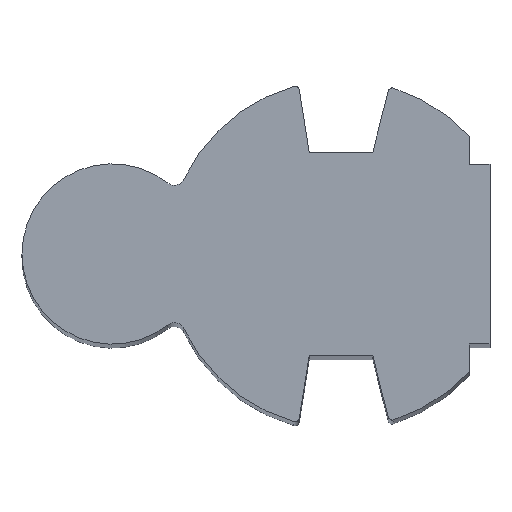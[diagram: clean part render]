
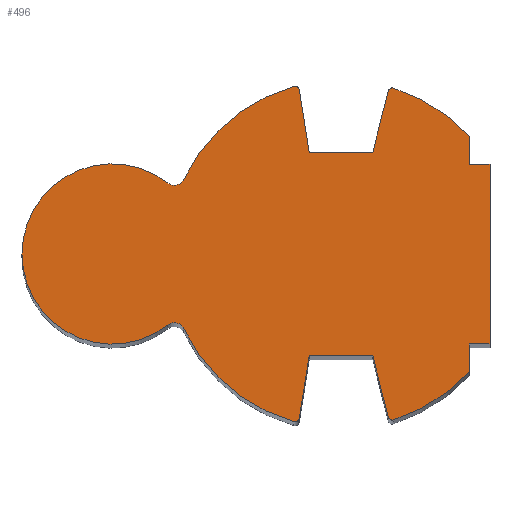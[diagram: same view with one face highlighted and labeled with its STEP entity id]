
A CAD part, top view. The second image highlights one B-rep face of the part: STEP entity #496.
In plain terms, the highlighted planar face has unit normal (0, 0, 1).
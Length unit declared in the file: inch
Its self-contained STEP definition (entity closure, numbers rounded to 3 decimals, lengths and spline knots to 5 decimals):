
#31=PLANE('',#561);
#69=FACE_OUTER_BOUND('',#95,.T.);
#95=EDGE_LOOP('',(#426,#427,#428,#429,#430,#431,#432,#433,#434,#435,#436,
#437,#438,#439,#440,#441,#442,#443,#444,#445,#446,#447));
#102=LINE('',#734,#148);
#112=LINE('',#782,#158);
#115=LINE('',#788,#161);
#118=LINE('',#794,#164);
#123=LINE('',#812,#169);
#126=LINE('',#818,#172);
#129=LINE('',#824,#175);
#132=LINE('',#830,#178);
#135=LINE('',#836,#181);
#140=LINE('',#854,#186);
#143=LINE('',#858,#189);
#148=VECTOR('',#582,0.3937);
#158=VECTOR('',#636,0.3937);
#161=VECTOR('',#641,0.3937);
#164=VECTOR('',#646,0.3937);
#169=VECTOR('',#665,0.3937);
#172=VECTOR('',#670,0.3937);
#175=VECTOR('',#675,0.3937);
#178=VECTOR('',#680,0.3937);
#181=VECTOR('',#685,0.3937);
#186=VECTOR('',#704,0.3937);
#189=VECTOR('',#709,0.3937);
#193=CIRCLE('',#520,0.01969);
#195=CIRCLE('',#523,0.76);
#197=CIRCLE('',#526,0.04688);
#199=CIRCLE('',#529,0.3937);
#201=CIRCLE('',#532,0.04688);
#203=CIRCLE('',#535,0.76);
#205=CIRCLE('',#538,0.01969);
#207=CIRCLE('',#544,0.01969);
#209=CIRCLE('',#547,0.76);
#211=CIRCLE('',#555,0.76);
#213=CIRCLE('',#558,0.01969);
#219=VERTEX_POINT('',#731);
#220=VERTEX_POINT('',#733);
#222=VERTEX_POINT('',#739);
#224=VERTEX_POINT('',#745);
#226=VERTEX_POINT('',#751);
#228=VERTEX_POINT('',#757);
#230=VERTEX_POINT('',#763);
#232=VERTEX_POINT('',#769);
#234=VERTEX_POINT('',#775);
#236=VERTEX_POINT('',#781);
#238=VERTEX_POINT('',#787);
#240=VERTEX_POINT('',#793);
#242=VERTEX_POINT('',#799);
#244=VERTEX_POINT('',#805);
#246=VERTEX_POINT('',#811);
#248=VERTEX_POINT('',#817);
#250=VERTEX_POINT('',#823);
#252=VERTEX_POINT('',#829);
#254=VERTEX_POINT('',#835);
#256=VERTEX_POINT('',#841);
#258=VERTEX_POINT('',#847);
#260=VERTEX_POINT('',#853);
#267=EDGE_CURVE('',#220,#219,#102,.T.);
#270=EDGE_CURVE('',#222,#220,#193,.T.);
#273=EDGE_CURVE('',#224,#222,#195,.T.);
#276=EDGE_CURVE('',#226,#224,#197,.T.);
#279=EDGE_CURVE('',#228,#226,#199,.T.);
#282=EDGE_CURVE('',#230,#228,#201,.T.);
#285=EDGE_CURVE('',#232,#230,#203,.T.);
#288=EDGE_CURVE('',#234,#232,#205,.T.);
#291=EDGE_CURVE('',#236,#234,#112,.T.);
#294=EDGE_CURVE('',#238,#236,#115,.T.);
#297=EDGE_CURVE('',#240,#238,#118,.T.);
#300=EDGE_CURVE('',#242,#240,#207,.T.);
#303=EDGE_CURVE('',#244,#242,#209,.T.);
#306=EDGE_CURVE('',#246,#244,#123,.T.);
#309=EDGE_CURVE('',#248,#246,#126,.T.);
#312=EDGE_CURVE('',#250,#248,#129,.T.);
#315=EDGE_CURVE('',#252,#250,#132,.T.);
#318=EDGE_CURVE('',#254,#252,#135,.T.);
#321=EDGE_CURVE('',#256,#254,#211,.T.);
#324=EDGE_CURVE('',#258,#256,#213,.T.);
#327=EDGE_CURVE('',#260,#258,#140,.T.);
#330=EDGE_CURVE('',#219,#260,#143,.T.);
#426=ORIENTED_EDGE('',*,*,#330,.T.);
#427=ORIENTED_EDGE('',*,*,#327,.T.);
#428=ORIENTED_EDGE('',*,*,#324,.T.);
#429=ORIENTED_EDGE('',*,*,#321,.T.);
#430=ORIENTED_EDGE('',*,*,#318,.T.);
#431=ORIENTED_EDGE('',*,*,#315,.T.);
#432=ORIENTED_EDGE('',*,*,#312,.T.);
#433=ORIENTED_EDGE('',*,*,#309,.T.);
#434=ORIENTED_EDGE('',*,*,#306,.T.);
#435=ORIENTED_EDGE('',*,*,#303,.T.);
#436=ORIENTED_EDGE('',*,*,#300,.T.);
#437=ORIENTED_EDGE('',*,*,#297,.T.);
#438=ORIENTED_EDGE('',*,*,#294,.T.);
#439=ORIENTED_EDGE('',*,*,#291,.T.);
#440=ORIENTED_EDGE('',*,*,#288,.T.);
#441=ORIENTED_EDGE('',*,*,#285,.T.);
#442=ORIENTED_EDGE('',*,*,#282,.T.);
#443=ORIENTED_EDGE('',*,*,#279,.T.);
#444=ORIENTED_EDGE('',*,*,#276,.T.);
#445=ORIENTED_EDGE('',*,*,#273,.T.);
#446=ORIENTED_EDGE('',*,*,#270,.T.);
#447=ORIENTED_EDGE('',*,*,#267,.T.);
#496=ADVANCED_FACE('',(#69),#31,.T.);
#520=AXIS2_PLACEMENT_3D('',#740,#588,#589);
#523=AXIS2_PLACEMENT_3D('',#746,#595,#596);
#526=AXIS2_PLACEMENT_3D('',#752,#602,#603);
#529=AXIS2_PLACEMENT_3D('',#758,#609,#610);
#532=AXIS2_PLACEMENT_3D('',#764,#616,#617);
#535=AXIS2_PLACEMENT_3D('',#770,#623,#624);
#538=AXIS2_PLACEMENT_3D('',#776,#630,#631);
#544=AXIS2_PLACEMENT_3D('',#800,#652,#653);
#547=AXIS2_PLACEMENT_3D('',#806,#659,#660);
#555=AXIS2_PLACEMENT_3D('',#842,#691,#692);
#558=AXIS2_PLACEMENT_3D('',#848,#698,#699);
#561=AXIS2_PLACEMENT_3D('',#859,#710,#711);
#582=DIRECTION('',(0.156,0.988,0.));
#588=DIRECTION('center_axis',(0.,0.,1.));
#589=DIRECTION('ref_axis',(1.,0.,0.));
#595=DIRECTION('center_axis',(0.,0.,1.));
#596=DIRECTION('ref_axis',(1.,0.,0.));
#602=DIRECTION('center_axis',(0.,0.,-1.));
#603=DIRECTION('ref_axis',(1.,0.,0.));
#609=DIRECTION('center_axis',(0.,0.,1.));
#610=DIRECTION('ref_axis',(1.,0.,0.));
#616=DIRECTION('center_axis',(0.,0.,-1.));
#617=DIRECTION('ref_axis',(1.,0.,0.));
#623=DIRECTION('center_axis',(0.,0.,1.));
#624=DIRECTION('ref_axis',(1.,0.,0.));
#630=DIRECTION('center_axis',(0.,0.,1.));
#631=DIRECTION('ref_axis',(1.,0.,0.));
#636=DIRECTION('',(-0.156,0.988,0.));
#641=DIRECTION('',(-1.,0.,0.));
#646=DIRECTION('',(-0.242,-0.97,0.));
#652=DIRECTION('center_axis',(0.,0.,1.));
#653=DIRECTION('ref_axis',(1.,0.,0.));
#659=DIRECTION('center_axis',(0.,0.,1.));
#660=DIRECTION('ref_axis',(1.,0.,0.));
#665=DIRECTION('',(0.,1.,0.));
#670=DIRECTION('',(-1.,0.,0.));
#675=DIRECTION('',(0.,1.,0.));
#680=DIRECTION('',(1.,0.,0.));
#685=DIRECTION('',(0.,1.,0.));
#691=DIRECTION('center_axis',(0.,0.,1.));
#692=DIRECTION('ref_axis',(1.,0.,0.));
#698=DIRECTION('center_axis',(0.,0.,1.));
#699=DIRECTION('ref_axis',(1.,0.,0.));
#704=DIRECTION('',(0.242,-0.97,0.));
#709=DIRECTION('',(1.,0.,0.));
#710=DIRECTION('center_axis',(0.,0.,1.));
#711=DIRECTION('ref_axis',(1.,0.,0.));
#731=CARTESIAN_POINT('',(0.8608,-0.4445,10.));
#733=CARTESIAN_POINT('',(0.81788,-0.71548,10.));
#734=CARTESIAN_POINT('',(0.8608,-0.4445,10.));
#739=CARTESIAN_POINT('',(0.79309,-0.73135,10.));
#740=CARTESIAN_POINT('Origin',(0.79844,-0.7124,10.));
#745=CARTESIAN_POINT('',(0.3137,-0.32691,10.));
#746=CARTESIAN_POINT('Origin',(0.9998,0.,10.));
#751=CARTESIAN_POINT('',(0.24251,-0.31014,10.));
#752=CARTESIAN_POINT('Origin',(0.27139,-0.34707,10.));
#757=CARTESIAN_POINT('',(0.24251,0.31014,10.));
#758=CARTESIAN_POINT('Origin',(0.,0.,10.));
#763=CARTESIAN_POINT('',(0.3137,0.32691,10.));
#764=CARTESIAN_POINT('Origin',(0.27139,0.34707,10.));
#769=CARTESIAN_POINT('',(0.79309,0.73135,10.));
#770=CARTESIAN_POINT('Origin',(0.9998,0.,10.));
#775=CARTESIAN_POINT('',(0.81788,0.71548,10.));
#776=CARTESIAN_POINT('Origin',(0.79844,0.7124,10.));
#781=CARTESIAN_POINT('',(0.8608,0.4445,10.));
#782=CARTESIAN_POINT('',(0.8608,0.4445,10.));
#787=CARTESIAN_POINT('',(1.1388,0.4445,10.));
#788=CARTESIAN_POINT('',(0.8608,0.4445,10.));
#793=CARTESIAN_POINT('',(1.20506,0.71026,10.));
#794=CARTESIAN_POINT('',(1.1388,0.4445,10.));
#799=CARTESIAN_POINT('',(1.23013,0.72426,10.));
#800=CARTESIAN_POINT('Origin',(1.22417,0.7055,10.));
#805=CARTESIAN_POINT('',(1.56068,0.51285,10.));
#806=CARTESIAN_POINT('Origin',(0.9998,0.,10.));
#811=CARTESIAN_POINT('',(1.56065,0.39302,10.));
#812=CARTESIAN_POINT('',(1.56065,0.39302,10.));
#817=CARTESIAN_POINT('',(1.6503,0.393,10.));
#818=CARTESIAN_POINT('',(1.6503,0.393,10.));
#823=CARTESIAN_POINT('',(1.6503,-0.393,10.));
#824=CARTESIAN_POINT('',(1.6503,0.393,10.));
#829=CARTESIAN_POINT('',(1.56065,-0.39302,10.));
#830=CARTESIAN_POINT('',(1.6503,-0.393,10.));
#835=CARTESIAN_POINT('',(1.56068,-0.51285,10.));
#836=CARTESIAN_POINT('',(1.56065,-0.39302,10.));
#841=CARTESIAN_POINT('',(1.23013,-0.72426,10.));
#842=CARTESIAN_POINT('Origin',(0.9998,0.,10.));
#847=CARTESIAN_POINT('',(1.20506,-0.71026,10.));
#848=CARTESIAN_POINT('Origin',(1.22417,-0.7055,10.));
#853=CARTESIAN_POINT('',(1.1388,-0.4445,10.));
#854=CARTESIAN_POINT('',(1.1388,-0.4445,10.));
#858=CARTESIAN_POINT('',(0.8608,-0.4445,10.));
#859=CARTESIAN_POINT('Origin',(0.6283,0.,10.));
